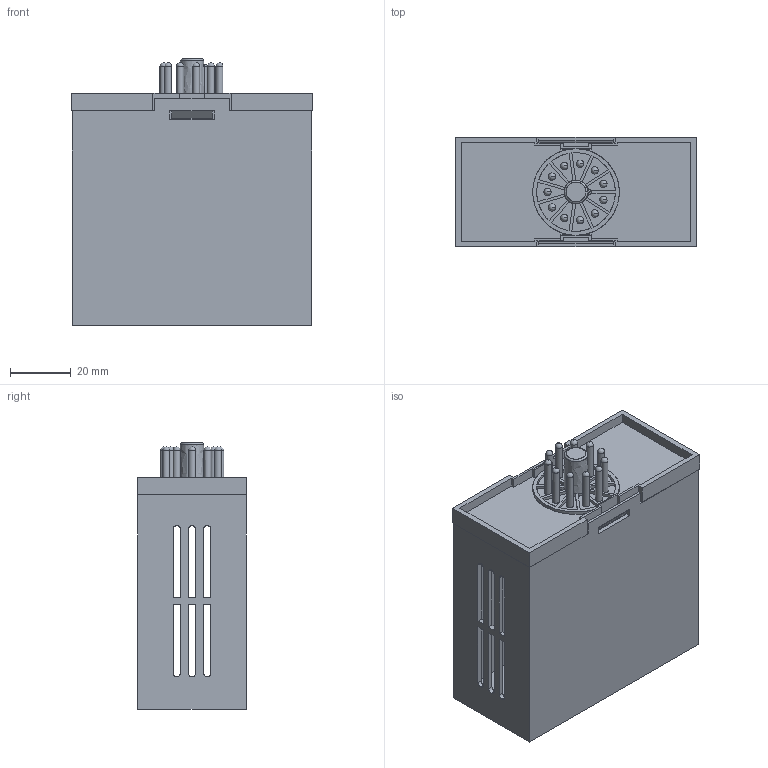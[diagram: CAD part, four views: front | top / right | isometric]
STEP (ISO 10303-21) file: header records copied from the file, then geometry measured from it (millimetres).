
FILE_DESCRIPTION(/* description */ ('AP-214 File'),/* implementation_level */ '2;1');
FILE_NAME(/* name */ 'Tampa_2',/* time_stamp */ '2014-08-19T16:49:17-03:00',/* author */ (''),/* organization */ (''),/* preprocessor_version */ 'ST-DEVELOPER v9',/* originating_system */ 'Delcam Exchange6.1.2005',/* authorisation */ '');
FILE_SCHEMA (('AUTOMOTIVE_DESIGN_CC2'));
Bounding box: 79.3 x 36 x 87.8 mm (x, y, z)
Surface area: 50211 mm2 (no closed solid volume)
Topology: 0 solids, 509 shells, 509 faces, 3008 edges, 2914 vertices
Faces by surface type: bspline 259, plane 162, cylinder 76, sphere 11, torus 1
Full cylindrical faces by diameter (mm): 1.3 x11, 2.3 x11, 2.8 x11, 4.7 x11, 28.5 x1
Entity records: 38734 total; most frequent: CARTESIAN_POINT 23397, ORIENTED_EDGE 3015, EDGE_CURVE 3015, B_SPLINE_CURVE_WITH_KNOTS 3015, VERTEX_POINT 3015, EDGE_LOOP 596, STYLED_ITEM 522, ADVANCED_FACE 509
